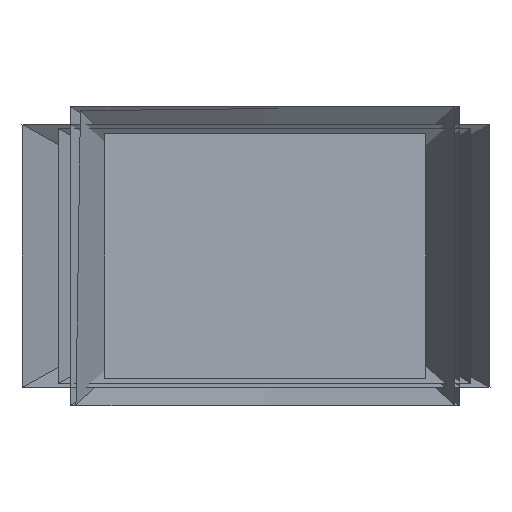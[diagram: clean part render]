
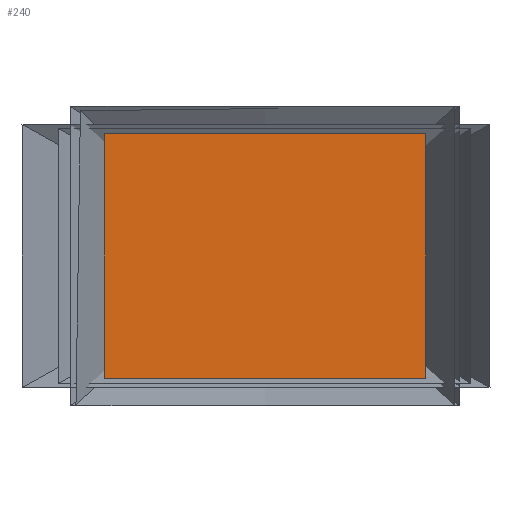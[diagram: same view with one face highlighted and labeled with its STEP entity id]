
A CAD part, front view. The second image highlights one B-rep face of the part: STEP entity #240.
In plain terms, the highlighted planar face has unit normal (0, -1, 0).
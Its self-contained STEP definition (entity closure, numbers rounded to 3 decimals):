
#58=DIRECTION('',(0.,0.,-1.));
#59=VECTOR('',#58,320.);
#60=CARTESIAN_POINT('',(-460.,-535.25,141.05));
#61=LINE('',#60,#59);
#74=DIRECTION('',(-1.,0.,0.));
#75=VECTOR('',#74,420.);
#76=CARTESIAN_POINT('',(-40.,-535.25,141.05));
#77=LINE('',#76,#75);
#86=DIRECTION('',(0.,0.,1.));
#87=VECTOR('',#86,320.);
#88=CARTESIAN_POINT('',(-40.,-535.25,-178.95));
#89=LINE('',#88,#87);
#94=DIRECTION('',(1.,0.,0.));
#95=VECTOR('',#94,420.);
#96=CARTESIAN_POINT('',(-460.,-535.25,-178.95));
#97=LINE('',#96,#95);
#114=CARTESIAN_POINT('',(-460.,-535.25,141.05));
#115=CARTESIAN_POINT('',(-460.,-535.25,-178.95));
#116=VERTEX_POINT('',#114);
#117=VERTEX_POINT('',#115);
#118=CARTESIAN_POINT('',(-40.,-535.25,141.05));
#119=VERTEX_POINT('',#118);
#120=CARTESIAN_POINT('',(-40.,-535.25,-178.95));
#121=VERTEX_POINT('',#120);
#229=CARTESIAN_POINT('',(-250.,-535.25,-18.95));
#230=DIRECTION('',(0.,1.,0.));
#231=DIRECTION('',(1.,0.,0.));
#232=AXIS2_PLACEMENT_3D('',#229,#230,#231);
#233=PLANE('',#232);
#234=ORIENTED_EDGE('',*,*,#152,.F.);
#235=ORIENTED_EDGE('',*,*,#174,.F.);
#236=ORIENTED_EDGE('',*,*,#195,.F.);
#237=ORIENTED_EDGE('',*,*,#215,.F.);
#238=EDGE_LOOP('',(#234,#235,#236,#237));
#239=FACE_OUTER_BOUND('',#238,.F.);
#240=ADVANCED_FACE('',(#239),#233,.F.);
#152=EDGE_CURVE('',#116,#117,#61,.T.);
#174=EDGE_CURVE('',#119,#116,#77,.T.);
#195=EDGE_CURVE('',#121,#119,#89,.T.);
#215=EDGE_CURVE('',#117,#121,#97,.T.);
